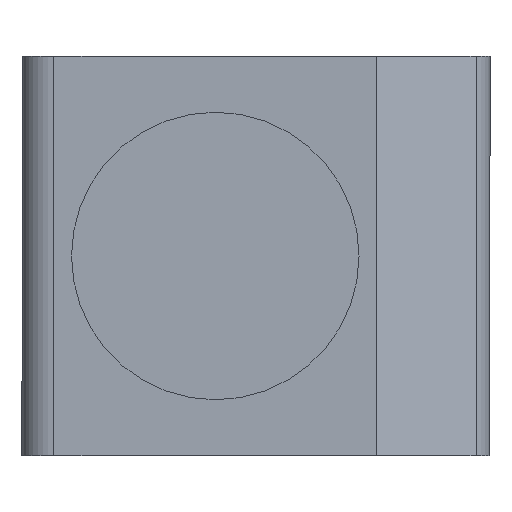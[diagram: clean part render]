
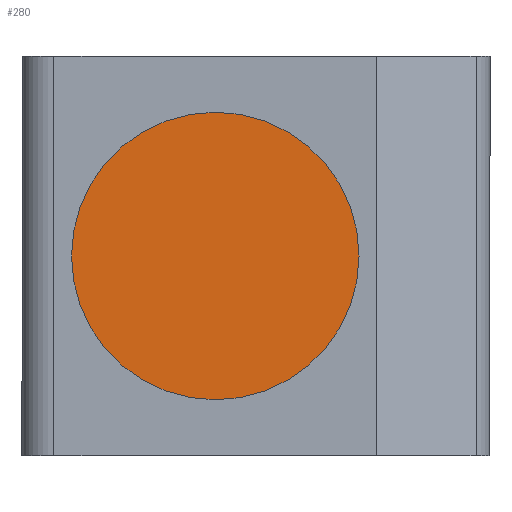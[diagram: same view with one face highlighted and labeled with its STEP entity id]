
A CAD part, front view. The second image highlights one B-rep face of the part: STEP entity #280.
In plain terms, the highlighted planar face has unit normal (0, -1, 0).
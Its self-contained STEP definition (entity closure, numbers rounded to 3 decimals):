
#10 = EDGE_LOOP ( 'NONE', ( #282, #37 ) ) ;
#34 = EDGE_CURVE ( 'NONE', #328, #375, #512, .T. ) ;
#35 = DIRECTION ( 'NONE',  ( 0., 0., 1. ) ) ;
#37 = ORIENTED_EDGE ( 'NONE', *, *, #149, .F. ) ;
#42 = CARTESIAN_POINT ( 'NONE',  ( -13.99, -125.271, -482.3 ) ) ;
#77 = AXIS2_PLACEMENT_3D ( 'NONE', #447, #117, #35 ) ;
#117 = DIRECTION ( 'NONE',  ( 0., 1., 0. ) ) ;
#126 = DIRECTION ( 'NONE',  ( 0., 0., 1. ) ) ;
#132 = DIRECTION ( 'NONE',  ( 0., 0., -1. ) ) ;
#149 = EDGE_CURVE ( 'NONE', #375, #328, #275, .T. ) ;
#218 = PLANE ( 'NONE',  #317 ) ;
#275 = CIRCLE ( 'NONE', #436, 9. ) ;
#280 = ADVANCED_FACE ( 'NONE', ( #441 ), #218, .T. ) ;
#282 = ORIENTED_EDGE ( 'NONE', *, *, #34, .F. ) ;
#317 = AXIS2_PLACEMENT_3D ( 'NONE', #514, #379, #132 ) ;
#328 = VERTEX_POINT ( 'NONE', #463 ) ;
#375 = VERTEX_POINT ( 'NONE', #432 ) ;
#379 = DIRECTION ( 'NONE',  ( 0., -1., 0. ) ) ;
#432 = CARTESIAN_POINT ( 'NONE',  ( -13.99, -125.271, -491.3 ) ) ;
#436 = AXIS2_PLACEMENT_3D ( 'NONE', #42, #500, #126 ) ;
#441 = FACE_OUTER_BOUND ( 'NONE', #10, .T. ) ;
#447 = CARTESIAN_POINT ( 'NONE',  ( -13.99, -125.271, -482.3 ) ) ;
#463 = CARTESIAN_POINT ( 'NONE',  ( -13.99, -125.271, -473.3 ) ) ;
#500 = DIRECTION ( 'NONE',  ( 0., 1., 0. ) ) ;
#512 = CIRCLE ( 'NONE', #77, 9. ) ;
#514 = CARTESIAN_POINT ( 'NONE',  ( -4.99, -125.271, -482.3 ) ) ;
